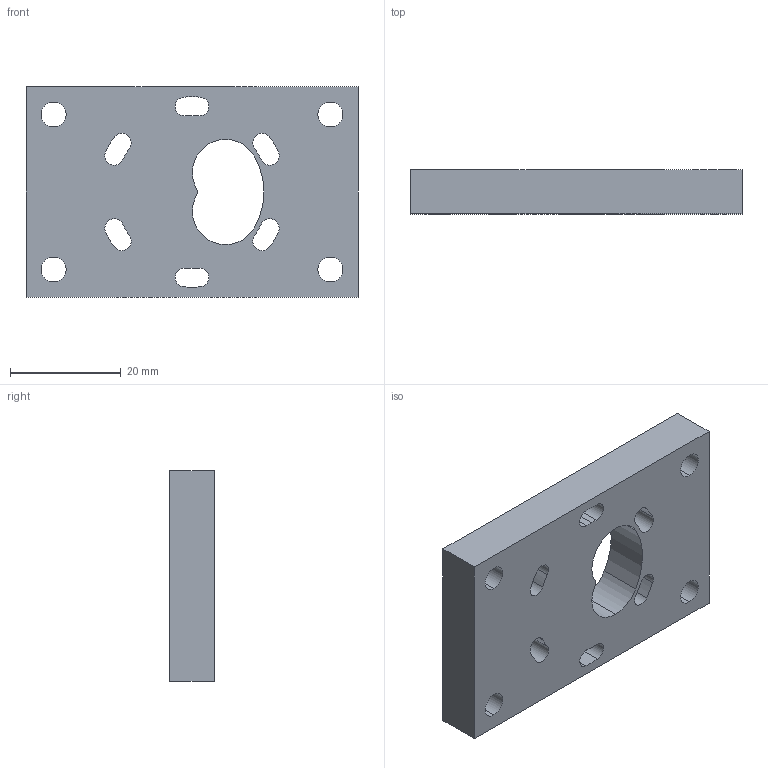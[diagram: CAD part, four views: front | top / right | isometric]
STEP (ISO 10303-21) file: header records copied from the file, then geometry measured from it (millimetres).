
FILE_DESCRIPTION (( 'STEP AP214' ), '1' );
FILE_NAME ('GZ21.28_V1萇儂假蚾啣.STEP', '2021-02-28T09:26:01', ( 'hp' ), ( '' ), 'SwSTEP 2.0', 'SolidWorks 2017', '' );
FILE_SCHEMA (( 'AUTOMOTIVE_DESIGN' ));
Length unit declared in the file: millimetre
Products named in the file (1): GZ21.28_V1萇儂假蚾啣
Bounding box: 60 x 8 x 38 mm (x, y, z)
Volume: 14613 mm3; surface area: 7225.3 mm2
Topology: 1 solids, 1 shells, 63 faces, 171 edges, 114 vertices
Faces by surface type: cylinder 53, plane 10
Entity records: 2129 total; most frequent: DIRECTION 405, CARTESIAN_POINT 349, ORIENTED_EDGE 342, EDGE_CURVE 171, AXIS2_PLACEMENT_3D 170, VERTEX_POINT 114, CIRCLE 106, EDGE_LOOP 89
